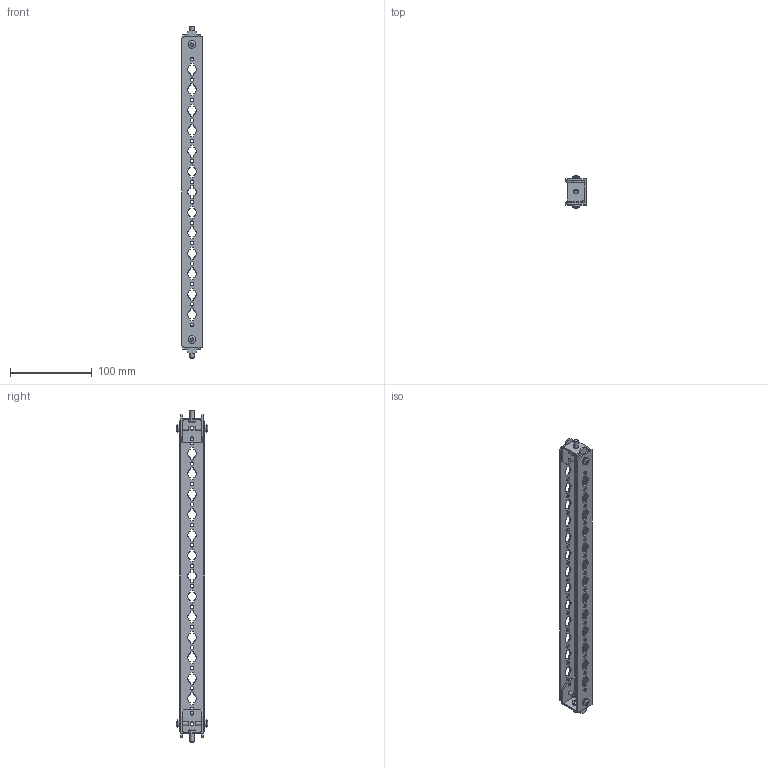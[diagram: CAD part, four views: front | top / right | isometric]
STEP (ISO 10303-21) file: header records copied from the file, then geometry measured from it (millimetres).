
FILE_DESCRIPTION(('Open CASCADE Model'),'2;1');
FILE_NAME('Open CASCADE Shape Model','2025-02-21T09:28:28',('Author'),( 'Open CASCADE'),'Open CASCADE STEP processor 7.8','Open CASCADE 7.8' ,'Unknown');
FILE_SCHEMA(('AUTOMOTIVE_DESIGN { 1 0 10303 214 1 1 1 1 }'));
Length unit declared in the file: millimetre
Products named in the file (4): Compound1; Solid1; Solid2; Solid3
Assembly tree (9 placements, depth 2):
  Compound1
    Solid1
    Solid2  x2
    Solid3  x6
Bounding box: 25 x 38.62 x 406 mm (x, y, z)
Volume: 60858.7 mm3; surface area: 68777.1 mm2
Topology: 9 solids, 9 shells, 900 faces, 2609 edges, 1733 vertices
Faces by surface type: cylinder 464, plane 400, torus 12, cone 12, sphere 6, bspline 6
Full cylindrical faces by diameter (mm): 4.4 x42, 4.5 x12, 5 x6, 5.5 x2, 6 x6, 9.5 x6
Entity records: 27002 total; most frequent: CARTESIAN_POINT 5039, DIRECTION 4712, ORIENTED_EDGE 4594, EDGE_CURVE 2297, AXIS2_PLACEMENT_3D 1711, VERTEX_POINT 1540, LINE 1290, VECTOR 1290
